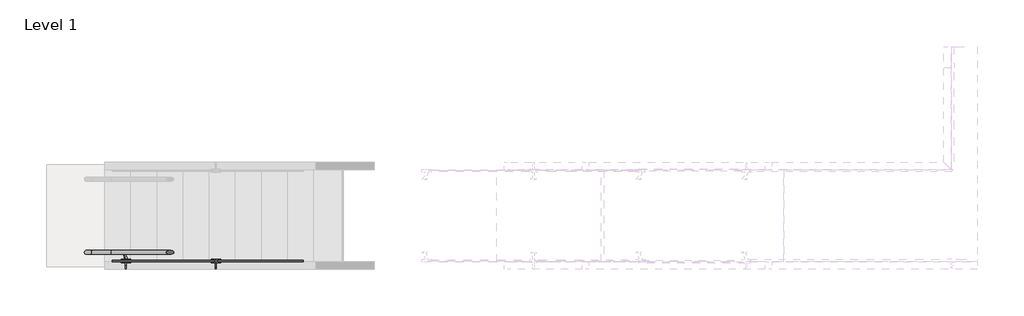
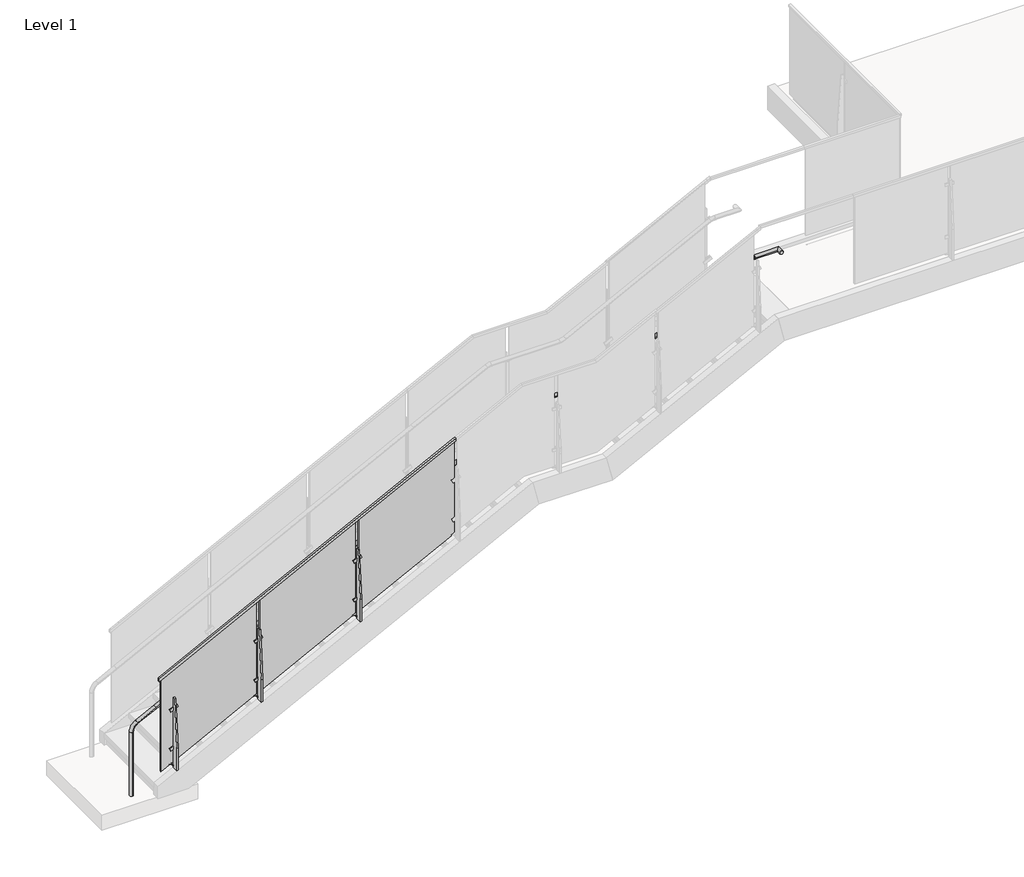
# One storey, part 27 of 37: 1 railing.
"""IFC4 building model written with IfcOpenShell, lengths in millimetres."""

from ifc_helpers import new_model, si_unit, point, frame, frame_2d, origin, place, context, project, spatial, polyline, circle_curve, ellipse_curve, trimmed, segment, composite_curve, outline, extrude, faceted_brep, element, save
from ifc_brep_helpers import plane_surface, cylinder_surface, revolved_surface, advanced_brep

model = new_model("IFC4")

# Units and contexts
model_context = context("Model", 3, world=origin())
ifc_project = project(units=[si_unit("LENGTHUNIT", "METRE", prefix="MILLI")], contexts=[model_context])

# Site, building, storey
site = spatial("IfcSite", under=ifc_project)
building = spatial("IfcBuilding", under=site)
storey = spatial("IfcBuildingStorey", under=building, Name="Level 1", Elevation=0.0)

# Railing
placement = place(None, origin())
element("IfcRailing", 1, ObjectType="VIVA-SOLO-Glass-Top_Weld_Steel-Channel Mount-Stair_Right_Lower", at=placement, inside=storey, context=model_context, shape_type="SolidModel", body=[
    advanced_brep(
    [(7796.9363892, 13042.6546645, 3730.2297243), (7796.9363892, 13080.7546645, 3730.2297243), (8069.9863892, 13080.7546645, 3730.2297243), (8031.8863892, 13042.6546645, 3730.2297243), (8031.8863892, 12998.2046645, 3730.2297243), (8069.9863892, 12998.2046645, 3730.2297243)],
    [
        (0, 1, circle_curve(frame((7796.9363892, 13061.7046645, 3730.2297243), z_axis=(-1.0, 0.0, 0.0), x_axis=(0.0, 1.0, 0.0)), 19.05)),
        (1, 0, circle_curve(frame((7796.9363892, 13061.7046645, 3730.2297243), z_axis=(-1.0, 0.0, 0.0), x_axis=(0.0, 1.0, 0.0)), 19.05)),
        (1, 2),
        (2, 3, ellipse_curve(frame((8050.9363892, 13061.7046645, 3730.2297243), z_axis=(-0.7071067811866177, 0.7071067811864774, 0.0), x_axis=(-0.7071067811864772, -0.7071067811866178, 0.0)), 26.9407684, 19.05)),
        (3, 0),
        (3, 2, ellipse_curve(frame((8050.9363892, 13061.7046645, 3730.2297243), z_axis=(-0.7071067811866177, 0.7071067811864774, 0.0), x_axis=(-0.7071067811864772, -0.7071067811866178, 0.0)), 26.9407684, 19.05)),
        (4, 5, circle_curve(frame((8050.9363892, 12998.2046645, 3730.2297243), z_axis=(0.0, -1.0, 0.0), x_axis=(1.0, 0.0, 0.0)), 19.05)),
        (5, 4, circle_curve(frame((8050.9363892, 12998.2046645, 3730.2297243), z_axis=(0.0, -1.0, 0.0), x_axis=(1.0, 0.0, 0.0)), 19.05)),
        (2, 5),
        (4, 3),
    ],
    [
        plane_surface(frame((7796.9363892, 13061.7046645, 3730.2297243), z_axis=(-1.0, 0.0, 0.0), x_axis=(0.0, 0.0, 1.0))),
        cylinder_surface(frame((7796.9363892, 13061.7046645, 3730.2297243), z_axis=(-1.0, 0.0, 0.0), x_axis=(0.0, 1.0, 0.0)), 19.05),
        plane_surface(frame((8050.9363892, 12998.2046645, 3730.2297243), z_axis=(0.0, -1.0, 0.0), x_axis=(0.0, 0.0, 1.0))),
        cylinder_surface(frame((8050.9363892, 13061.7046645, 3730.2297243), z_axis=(0.0, 1.0, 0.0), x_axis=(1.0, 0.0, 0.0)), 19.05),
    ],
    [
        (0, [[1, 2]]),
        (1, [[-2, 3, 4, 5]]),
        (1, [[-1, -5, 6, -3]]),
        (2, [[7, 8]]),
        (3, [[-4, 9, -7, 10]]),
        (3, [[-6, -10, -8, -9]]),
    ],
),
    extrude(outline(composite_curve([segment(trimmed(circle_curve(frame_2d((1187.6734986, 13061.7046645)), 50.8), [point((1187.6734986, 13112.5046645))], [point((1187.6734986, 13010.9046645))], False, "CARTESIAN"), True, "CONTINUOUS"), segment(trimmed(circle_curve(frame_2d((1187.6734986, 13061.7046645)), 50.8), [point((1187.6734986, 13010.9046645))], [point((1187.6734986, 13112.5046645))], False, "CARTESIAN"), True, "CONTINUOUS")], self_intersect=False)), frame((0.0, 0.0, -27.94), z_axis=(0.0, 0.0, 1.0), x_axis=(1.0, 0.0, 0.0)), (0.0, 0.0, 1.0), 19.05),
    advanced_brep(
    [(1187.6734986, 13042.6546645, -8.89), (1187.6734986, 13080.7546645, -8.89), (1187.6734986, 13042.6546645, 714.6335715), (1187.6734986, 13080.7546645, 714.6335715), (1243.1848475, 13080.7546645, 805.1785672), (1243.1848475, 13042.6546645, 805.1785672), (1437.6151207, 13042.6546645, 904.1462566), (1437.6151207, 13080.7546645, 904.1462566), (4587.2151207, 13042.6546645, 2507.3360764), (4587.2151207, 13080.7546645, 2507.3360764), (5420.7257203, 13080.7546645, 2919.1997077), (5420.7257203, 13042.6546645, 2919.1997077), (6143.8965574, 13042.6546645, 2919.1997077), (6143.8965574, 13080.7546645, 2919.1997077), (6207.2684526, 13080.7546645, 2934.4003386), (6207.2684526, 13042.6546645, 2934.4003386), (7749.0231226, 13042.6546645, 3719.17472), (7749.0231226, 13080.7546645, 3719.17472), (7795.1117737, 13080.7546645, 3730.2297243), (7795.1117737, 13042.6546645, 3730.2297243), (7796.9363892, 13042.6546645, 3730.2297243), (7796.9363892, 13080.7546645, 3730.2297243), (5374.6370692, 13042.6546645, 2908.1447034), (5374.6370692, 13080.7546645, 2908.1447034)],
    [
        (0, 1, circle_curve(frame((1187.6734986, 13061.7046645, -8.89), z_axis=(0.0, 0.0, -1.0), x_axis=(0.0, 1.0, 0.0)), 19.05)),
        (1, 0, circle_curve(frame((1187.6734986, 13061.7046645, -8.89), z_axis=(0.0, 0.0, -1.0), x_axis=(0.0, 1.0, 0.0)), 19.05)),
        (0, 2),
        (2, 3, circle_curve(frame((1187.6734986, 13061.7046645, 714.6335715), z_axis=(0.0, 0.0, -1.0), x_axis=(0.0, 1.0, 0.0)), 19.05)),
        (3, 1),
        (3, 2, circle_curve(frame((1187.6734986, 13061.7046645, 714.6335715), z_axis=(0.0, 0.0, -1.0), x_axis=(0.0, 1.0, 0.0)), 19.05)),
        (4, 3, circle_curve(frame((1289.2734986, 13080.7546645, 714.6335715), z_axis=(0.0, -1.0, 0.0), x_axis=(-1.0, 0.0, 0.0)), 101.6)),
        (2, 5, circle_curve(frame((1289.2734986, 13042.6546645, 714.6335715), z_axis=(0.0, 1.0, 0.0), x_axis=(-1.0, 0.0, 0.0)), 101.6)),
        (5, 4, circle_curve(frame((1243.1848475, 13061.7046645, 805.1785672), z_axis=(-0.8911909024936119, 0.0, -0.45362845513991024), x_axis=(0.0, 1.0, 0.0)), 19.05)),
        (4, 5, circle_curve(frame((1243.1848475, 13061.7046645, 805.1785672), z_axis=(-0.8911909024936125, 0.0, -0.45362845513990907), x_axis=(0.0, 1.0, 0.0)), 19.05)),
        (5, 6),
        (6, 7, circle_curve(frame((1437.6151207, 13061.7046645, 904.1462566), z_axis=(-0.891190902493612, 0.0, -0.45362845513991), x_axis=(0.0, 1.0, 0.0)), 19.05)),
        (7, 4),
        (7, 6, circle_curve(frame((1437.6151207, 13061.7046645, 904.1462566), z_axis=(-0.891190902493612, 0.0, -0.45362845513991), x_axis=(0.0, 1.0, 0.0)), 19.05)),
        (6, 8),
        (8, 9, circle_curve(frame((4587.2151207, 13061.7046645, 2507.3360764), z_axis=(-0.8911909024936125, 0.0, -0.453628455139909), x_axis=(0.0, 1.0, 0.0)), 19.05)),
        (9, 7),
        (9, 8, circle_curve(frame((4587.2151207, 13061.7046645, 2507.3360764), z_axis=(-0.8911909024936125, 0.0, -0.453628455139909), x_axis=(0.0, 1.0, 0.0)), 19.05)),
        (10, 11, circle_curve(frame((5420.7257203, 13061.7046645, 2919.1997077), z_axis=(1.0, 0.0, 0.0), x_axis=(0.0, 1.0, 0.0)), 19.05)),
        (11, 12),
        (12, 13, circle_curve(frame((6143.8965574, 13061.7046645, 2919.1997077), z_axis=(-1.0, 0.0, 0.0), x_axis=(0.0, 1.0, 0.0)), 19.05)),
        (13, 10),
        (11, 10, circle_curve(frame((5420.7257203, 13061.7046645, 2919.1997077), z_axis=(1.0, 0.0, 0.0), x_axis=(0.0, 1.0, 0.0)), 19.05)),
        (13, 12, circle_curve(frame((6143.8965574, 13061.7046645, 2919.1997077), z_axis=(-1.0, 0.0, 0.0), x_axis=(0.0, 1.0, 0.0)), 19.05)),
        (14, 15, circle_curve(frame((6207.2684526, 13061.7046645, 2934.4003386), z_axis=(0.8911909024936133, 0.0, 0.4536284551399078), x_axis=(0.0, 1.0, 0.0)), 19.05)),
        (15, 16),
        (16, 17, circle_curve(frame((7749.0231226, 13061.7046645, 3719.17472), z_axis=(-0.8911909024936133, 0.0, -0.4536284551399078), x_axis=(0.0, 1.0, 0.0)), 19.05)),
        (17, 14),
        (15, 14, circle_curve(frame((6207.2684526, 13061.7046645, 2934.4003386), z_axis=(0.8911909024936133, 0.0, 0.4536284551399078), x_axis=(0.0, 1.0, 0.0)), 19.05)),
        (17, 16, circle_curve(frame((7749.0231226, 13061.7046645, 3719.17472), z_axis=(-0.8911909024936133, 0.0, -0.4536284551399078), x_axis=(0.0, 1.0, 0.0)), 19.05)),
        (14, 13, circle_curve(frame((6143.8965574, 13080.7546645, 3058.8997077), z_axis=(0.0, 1.0, 0.0), x_axis=(0.0, 0.0, -1.0)), 139.7)),
        (12, 15, circle_curve(frame((6143.8965574, 13042.6546645, 3058.8997077), z_axis=(0.0, -1.0, 0.0), x_axis=(0.0, 0.0, -1.0)), 139.7)),
        (18, 17, circle_curve(frame((7795.1117737, 13080.7546645, 3628.6297243), z_axis=(0.0, -1.0, 0.0), x_axis=(-0.45362845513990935, 0.0, 0.8911909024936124)), 101.6)),
        (16, 19, circle_curve(frame((7795.1117737, 13042.6546645, 3628.6297243), z_axis=(0.0, 1.0, 0.0), x_axis=(-0.45362845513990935, 0.0, 0.8911909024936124)), 101.6)),
        (19, 18, circle_curve(frame((7795.1117737, 13061.7046645, 3730.2297243), z_axis=(-1.0000000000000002, 0.0, 0.0), x_axis=(0.0, 1.0000000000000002, 0.0)), 19.05)),
        (18, 19, circle_curve(frame((7795.1117737, 13061.7046645, 3730.2297243), z_axis=(-1.0000000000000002, 0.0, 0.0), x_axis=(0.0, 1.0000000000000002, 0.0)), 19.05)),
        (20, 21, circle_curve(frame((7796.9363892, 13061.7046645, 3730.2297243), z_axis=(1.0, 0.0, 0.0), x_axis=(0.0, 1.0, 0.0)), 19.05)),
        (21, 20, circle_curve(frame((7796.9363892, 13061.7046645, 3730.2297243), z_axis=(1.0, 0.0, 0.0), x_axis=(0.0, 1.0, 0.0)), 19.05)),
        (19, 20),
        (21, 18),
        (8, 22),
        (22, 23, circle_curve(frame((5374.6370692, 13061.7046645, 2908.1447034), z_axis=(-0.8911909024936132, 0.0, -0.4536284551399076), x_axis=(0.0, 1.0, 0.0)), 19.05)),
        (23, 9),
        (23, 22, circle_curve(frame((5374.6370692, 13061.7046645, 2908.1447034), z_axis=(-0.8911909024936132, 0.0, -0.4536284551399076), x_axis=(0.0, 1.0, 0.0)), 19.05)),
        (10, 23, circle_curve(frame((5420.7257203, 13080.7546645, 2817.5997077), z_axis=(0.0, -1.0, 0.0), x_axis=(-0.4536284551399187, 0.0, 0.8911909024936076)), 101.6)),
        (22, 11, circle_curve(frame((5420.7257203, 13042.6546645, 2817.5997077), z_axis=(0.0, 1.0, 0.0), x_axis=(-0.4536284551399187, 0.0, 0.8911909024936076)), 101.6)),
    ],
    [
        plane_surface(frame((1168.6234986, 13023.6046645, -8.89), z_axis=(0.0, 0.0, -1.0), x_axis=(1.0, 0.0, 0.0))),
        cylinder_surface(frame((1187.6734986, 13061.7046645, -8.89), z_axis=(0.0, 0.0, -1.0), x_axis=(0.0, 1.0, 0.0)), 19.05),
        revolved_surface(trimmed(ellipse_curve(frame((1187.6734986, 13061.7046645, 714.6335715), z_axis=(0.0, 0.0, -1.0), x_axis=(0.0, 1.0, 0.0)), 19.05, 19.05), [point((1187.6734986, 13042.6546645, 714.6335715))], [point((1187.6734986, 13080.7546645, 714.6335715))], True, "CARTESIAN"), (1289.2734986, 13061.7046645, 714.6335715), (0.0, 1.0, 0.0)),
        revolved_surface(trimmed(ellipse_curve(frame((1187.6734986, 13061.7046645, 714.6335715), z_axis=(0.0, 0.0, -1.0), x_axis=(0.0, 1.0, 0.0)), 19.05, 19.05), [point((1187.6734986, 13080.7546645, 714.6335715))], [point((1187.6734986, 13042.6546645, 714.6335715))], True, "CARTESIAN"), (1289.2734986, 13061.7046645, 714.6335715), (0.0, 1.0, 0.0)),
        cylinder_surface(frame((1243.1848475, 13061.7046645, 805.1785672), z_axis=(-0.891190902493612, 0.0, -0.45362845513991), x_axis=(0.0, 1.0, 0.0)), 19.05),
        cylinder_surface(frame((1437.6151207, 13061.7046645, 904.1462566), z_axis=(-0.8911909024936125, 0.0, -0.453628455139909), x_axis=(0.0, 1.0, 0.0)), 19.05),
        cylinder_surface(frame((5420.7257203, 13061.7046645, 2919.1997077), z_axis=(-1.0, 0.0, 0.0), x_axis=(0.0, 1.0, 0.0)), 19.05),
        cylinder_surface(frame((6207.2684526, 13061.7046645, 2934.4003386), z_axis=(-0.8911909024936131, 0.0, -0.4536284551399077), x_axis=(0.0, 1.0, 0.0)), 19.05),
        revolved_surface(trimmed(ellipse_curve(frame((6143.8965574, 13061.7046645, 2919.1997077), z_axis=(-1.0, 0.0, 0.0), x_axis=(0.0, 1.0, 0.0)), 19.05, 19.05), [point((6143.8965574, 13042.6546645, 2919.1997077))], [point((6143.8965574, 13080.7546645, 2919.1997077))], True, "CARTESIAN"), (6143.8965574, 13061.7046645, 3058.8997077), (0.0, -1.0, 0.0)),
        revolved_surface(trimmed(ellipse_curve(frame((6143.8965574, 13061.7046645, 2919.1997077), z_axis=(-1.0, 0.0, 0.0), x_axis=(0.0, 1.0, 0.0)), 19.05, 19.05), [point((6143.8965574, 13080.7546645, 2919.1997077))], [point((6143.8965574, 13042.6546645, 2919.1997077))], True, "CARTESIAN"), (6143.8965574, 13061.7046645, 3058.8997077), (0.0, -1.0, 0.0)),
        revolved_surface(trimmed(ellipse_curve(frame((7749.0231226, 13061.7046645, 3719.17472), z_axis=(-0.8911909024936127, 0.0, -0.45362845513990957), x_axis=(0.0, 1.0000000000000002, 0.0)), 19.05, 19.05), [point((7749.0231226, 13042.6546645, 3719.17472))], [point((7749.0231226, 13080.7546645, 3719.17472))], True, "CARTESIAN"), (7795.1117737, 13061.7046645, 3628.6297243), (0.0, 1.0000000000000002, 0.0)),
        revolved_surface(trimmed(ellipse_curve(frame((7749.0231226, 13061.7046645, 3719.17472), z_axis=(-0.8911909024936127, 0.0, -0.45362845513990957), x_axis=(0.0, 1.0000000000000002, 0.0)), 19.05, 19.05), [point((7749.0231226, 13080.7546645, 3719.17472))], [point((7749.0231226, 13042.6546645, 3719.17472))], True, "CARTESIAN"), (7795.1117737, 13061.7046645, 3628.6297243), (0.0, 1.0000000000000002, 0.0)),
        plane_surface(frame((7796.9363892, 13061.7046645, 3749.2797243), z_axis=(1.0, 0.0, 0.0), x_axis=(0.0, 1.0, 0.0))),
        cylinder_surface(frame((7795.1117737, 13061.7046645, 3730.2297243), z_axis=(-1.0, 0.0, 0.0), x_axis=(0.0, 1.0, 0.0)), 19.05),
        cylinder_surface(frame((4587.2151207, 13061.7046645, 2507.3360764), z_axis=(-0.8911909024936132, 0.0, -0.4536284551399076), x_axis=(0.0, 1.0, 0.0)), 19.05),
        revolved_surface(trimmed(ellipse_curve(frame((5374.6370692, 13061.7046645, 2908.1447034), z_axis=(-0.8911909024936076, 0.0, -0.4536284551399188), x_axis=(0.0, 1.0, 0.0)), 19.05, 19.05), [point((5374.6370692, 13042.6546645, 2908.1447034))], [point((5374.6370692, 13080.7546645, 2908.1447034))], True, "CARTESIAN"), (5420.7257203, 13061.7046645, 2817.5997077), (0.0, 1.0, 0.0)),
        revolved_surface(trimmed(ellipse_curve(frame((5374.6370692, 13061.7046645, 2908.1447034), z_axis=(-0.8911909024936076, 0.0, -0.4536284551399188), x_axis=(0.0, 1.0, 0.0)), 19.05, 19.05), [point((5374.6370692, 13080.7546645, 2908.1447034))], [point((5374.6370692, 13042.6546645, 2908.1447034))], True, "CARTESIAN"), (5420.7257203, 13061.7046645, 2817.5997077), (0.0, 1.0, 0.0)),
    ],
    [
        (0, [[1, 2]]),
        (1, [[-1, 3, 4, 5]]),
        (1, [[-2, -5, 6, -3]]),
        (2, [[7, -4, 8, 9]]),
        (3, [[-8, -6, -7, 10]]),
        (4, [[-9, 11, 12, 13]]),
        (4, [[-10, -13, 14, -11]]),
        (5, [[-12, 15, 16, 17]]),
        (5, [[-14, -17, 18, -15]]),
        (6, [[19, 20, 21, 22]]),
        (6, [[23, -22, 24, -20]]),
        (7, [[25, 26, 27, 28]]),
        (7, [[29, -28, 30, -26]]),
        (8, [[31, -21, 32, -25]]),
        (9, [[-32, -24, -31, -29]]),
        (10, [[33, -27, 34, 35]]),
        (11, [[-34, -30, -33, 36]]),
        (12, [[37, 38]]),
        (13, [[-35, 39, -38, 40]]),
        (13, [[-36, -40, -37, -39]]),
        (14, [[-16, 41, 42, 43]]),
        (14, [[-18, -43, 44, -41]]),
        (15, [[45, -42, 46, -19]]),
        (16, [[-46, -44, -45, -23]]),
    ],
),
    faceted_brep([(1428.9734986, 12965.0576645, 1279.2634433), (1428.9734986, 12987.2826645, 1279.2634433), (1428.9734986, 12987.2826645, 1250.7622547), (1428.9734986, 12982.5201645, 1250.7622547), (1428.9734986, 12982.5201645, 1273.9194705), (1428.9734986, 12969.8201645, 1273.9194705), (1428.9734986, 12969.8201645, 1250.7622547), (1428.9734986, 12965.0576645, 1250.7622547), (4578.5734986, 12965.0576645, 2882.453263), (4578.5734986, 12965.0576645, 2853.9520744), (4578.5734986, 12969.8201645, 2853.9520744), (4578.5734986, 12969.8201645, 2877.1092902), (4578.5734986, 12982.5201645, 2877.1092902), (4578.5734986, 12982.5201645, 2853.9520744), (4578.5734986, 12987.2826645, 2853.9520744), (4578.5734986, 12987.2826645, 2882.453263)], [[[0, 1, 2, 3, 4, 5, 6, 7]], [[8, 9, 10, 11, 12, 13, 14, 15]], [[1, 0, 8, 15]], [[2, 1, 15, 14]], [[3, 2, 14, 13]], [[4, 3, 13, 12]], [[5, 4, 12, 11]], [[6, 5, 11, 10]], [[7, 6, 10, 9]], [[0, 7, 9, 8]]]),
    extrude(outline(polyline([(2868.4999629, 4562.0232119), (2351.3419566, 3546.0232119), (1300.06135, 3546.0232119), (1817.2193564, 4562.0232119), (2868.4999629, 4562.0232119)])), frame((0.0, 12969.7566645, 0.0), z_axis=(0.0, 1.0, 0.0), x_axis=(0.0, 0.0, 1.0)), (0.0, 0.0, 1.0), 12.7),
    extrude(outline(polyline([(-12.7, 0.0), (-12.7, 3.175), (50.8, 65.0875), (61.9125, 65.0875), (61.9125, 34.925), (58.7375, 34.925), (0.0, 3.175), (0.0, 0.0), (-12.7, 0.0)])), frame((3501.0892271, 13054.1451983, 1935.8078332), z_axis=(0.8987940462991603, 0.0, 0.4383711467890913), x_axis=(0.0, -1.0, 0.0)), (0.0, 0.0, 1.0), 12.7),
    extrude(outline(polyline([(12960.1681645, 2017.8566565), (12960.1681645, 1227.9420499), (12896.6681645, 1227.9420499), (12896.6681645, 1484.4566565), (12934.7681645, 2017.8566565), (12960.1681645, 2017.8566565)])), frame((3522.3568319, 0.0, 0.0), z_axis=(1.0, 0.0, 0.0), x_axis=(0.0, 1.0, 0.0)), (0.0, 0.0, 1.0), 12.7),
    extrude(outline(polyline([(0.0, -88.9), (0.0, 0.0), (9.525, 0.0), (9.525, -88.9), (0.0, -88.9)])), frame((3575.6284037, 12970.0076983, 1461.6851276), z_axis=(-0.4383711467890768, 0.0, 0.8987940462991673), x_axis=(0.0, -1.0, 0.0)), (0.0, 0.0, 1.0), 31.75),
    extrude(outline(polyline([(0.0, -88.9), (0.0, 0.0), (9.525, 0.0), (9.525, -88.9), (0.0, -88.9)])), frame((3575.6284037, 12992.2326983, 1898.8634122), z_axis=(-0.4383711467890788, 0.0, 0.8987940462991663), x_axis=(0.0, -1.0, 0.0)), (0.0, 0.0, 1.0), 31.75),
    extrude(outline(polyline([(0.0, -88.9), (0.0, 0.0), (9.525, 0.0), (9.525, -88.9), (0.0, -88.9)])), frame((3575.6284037, 12970.0076983, 1898.8634122), z_axis=(-0.4383711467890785, 0.0, 0.8987940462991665), x_axis=(0.0, -1.0, 0.0)), (0.0, 0.0, 1.0), 31.75),
    extrude(outline(polyline([(0.0, -88.9), (0.0, 0.0), (9.525, 0.0), (9.525, -88.9), (0.0, -88.9)])), frame((3575.6284037, 12992.2326983, 1461.6851276), z_axis=(-0.43837114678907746, 0.0, 0.898794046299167), x_axis=(0.0, -1.0, 0.0)), (0.0, 0.0, 1.0), 31.75),
    extrude(outline(polyline([(1305.1332085, 3564.4797891), (1310.8405507, 3561.6961324), (1271.8693557, 3481.7933416), (1266.1620135, 3484.5769984), (1265.9508552, 3534.1351435), (1305.1332085, 3564.4797891)])), frame((0.0, 12970.0076983, 0.0), z_axis=(0.0, 1.0, 0.0), x_axis=(0.0, 0.0, 1.0)), (0.0, 0.0, 1.0), 12.7),
    extrude(outline(composite_curve([segment(polyline([(0.0, 0.0), (2.8057896, 0.0)]), True, "CONTINUOUS"), segment(trimmed(circle_curve(frame_2d((26.8875079, 8.0765616)), 25.4), [point((2.8057896, 0.0))], [point((8.7901893, -9.7460941))], True, "CARTESIAN"), True, "CONTINUOUS"), segment(polyline([(8.7901893, -9.7460941), (6.4034747, -11.1240644)]), True, "CONTINUOUS"), segment(trimmed(circle_curve(frame_2d((24.5007934, 6.6985914)), 25.4), [point((6.4034747, -11.1240644))], [point((0.0, 0.0))], False, "CARTESIAN"), True, "CONTINUOUS")], self_intersect=False)), frame((3485.1681095, 13054.0459519, 1924.9946344), z_axis=(0.8987940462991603, 0.0, 0.4383711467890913), x_axis=(-0.37964054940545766, 0.5000000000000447, 0.7783784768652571)), (0.0, 0.0, 1.0), 50.8),
    extrude(outline(composite_curve([segment(trimmed(circle_curve(frame_2d((1474.7125104, 3528.7178664)), 6.35), [point((1474.7125104, 3535.0678664))], [point((1474.7125104, 3522.3678664))], False, "CARTESIAN"), True, "CONTINUOUS"), segment(trimmed(circle_curve(frame_2d((1474.7125104, 3528.7178664)), 6.35), [point((1474.7125104, 3522.3678664))], [point((1474.7125104, 3535.0678664))], False, "CARTESIAN"), True, "CONTINUOUS")], self_intersect=False)), frame((0.0, 12970.0076983, 0.0), z_axis=(0.0, 1.0, 0.0), x_axis=(0.0, 0.0, 1.0)), (0.0, 0.0, 1.0), 12.7),
    extrude(outline(composite_curve([segment(trimmed(circle_curve(frame_2d((1892.9516201, 3528.7178664)), 6.35), [point((1892.9516201, 3535.0678664))], [point((1892.9516201, 3522.3678664))], False, "CARTESIAN"), True, "CONTINUOUS"), segment(trimmed(circle_curve(frame_2d((1892.9516201, 3528.7178664)), 6.35), [point((1892.9516201, 3522.3678664))], [point((1892.9516201, 3535.0678664))], False, "CARTESIAN"), True, "CONTINUOUS")], self_intersect=False)), frame((0.0, 12970.0076983, 0.0), z_axis=(0.0, 1.0, 0.0), x_axis=(0.0, 0.0, 1.0)), (0.0, 0.0, 1.0), 12.7),
    extrude(outline(composite_curve([segment(trimmed(circle_curve(frame_2d((1251.828047, 3528.7178664)), 11.1125), [point((1251.828047, 3539.8303664))], [point((1251.828047, 3517.6053664))], False, "CARTESIAN"), True, "CONTINUOUS"), segment(trimmed(circle_curve(frame_2d((1251.828047, 3528.7178664)), 11.1125), [point((1251.828047, 3517.6053664))], [point((1251.828047, 3539.8303664))], False, "CARTESIAN"), True, "CONTINUOUS")], self_intersect=False)), frame((0.0, 12960.4826983, 0.0), z_axis=(0.0, 1.0, 0.0), x_axis=(0.0, 0.0, 1.0)), (0.0, 0.0, 1.0), 25.4),
    extrude(outline(polyline([(2334.1033564, 3512.1565452), (1816.94535, 2496.1565452), (765.6647434, 2496.1565452), (1282.8227498, 3512.1565452), (2334.1033564, 3512.1565452)])), frame((0.0, 12969.7566645, 0.0), z_axis=(0.0, 1.0, 0.0), x_axis=(0.0, 0.0, 1.0)), (0.0, 0.0, 1.0), 12.7),
    extrude(outline(polyline([(-12.7, 0.0), (-12.7, 3.175), (50.8, 65.0875), (61.9125, 65.0875), (61.9125, 34.9249999), (58.7375, 34.9249999), (0.0, 3.175), (0.0, 0.0), (-12.7, 0.0)])), frame((2451.2225604, 13054.1451983, 1401.4112266), z_axis=(0.8987940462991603, 0.0, 0.4383711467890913), x_axis=(0.0, -1.0, 0.0)), (0.0, 0.0, 1.0), 12.7),
    extrude(outline(polyline([(12960.1681645, 1483.4600499), (12960.1681645, 693.5454433), (12896.6681645, 693.5454433), (12896.6681645, 950.0600499), (12934.7681645, 1483.4600499), (12960.1681645, 1483.4600499)])), frame((2472.4901653, 0.0, 0.0), z_axis=(1.0, 0.0, 0.0), x_axis=(0.0, 1.0, 0.0)), (0.0, 0.0, 1.0), 12.7),
    extrude(outline(polyline([(0.0, -88.9000001), (0.0, 0.0), (9.525, 0.0), (9.525, -88.9000001), (0.0, -88.9000001)])), frame((2525.7617371, 12970.0076983, 927.288521), z_axis=(-0.4383711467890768, 0.0, 0.8987940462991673), x_axis=(0.0, -1.0, 0.0)), (0.0, 0.0, 1.0), 31.75),
    extrude(outline(polyline([(0.0, -88.9000001), (0.0, 0.0), (9.525, 0.0), (9.525, -88.9000001), (0.0, -88.9000001)])), frame((2525.7617371, 12992.2326983, 1364.4668056), z_axis=(-0.4383711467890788, 0.0, 0.8987940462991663), x_axis=(0.0, -1.0, 0.0)), (0.0, 0.0, 1.0), 31.75),
    extrude(outline(polyline([(0.0, -88.9000001), (0.0, 0.0), (9.525, 0.0), (9.525, -88.9000001), (0.0, -88.9000001)])), frame((2525.7617371, 12970.0076983, 1364.4668056), z_axis=(-0.4383711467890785, 0.0, 0.8987940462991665), x_axis=(0.0, -1.0, 0.0)), (0.0, 0.0, 1.0), 31.75),
    extrude(outline(polyline([(0.0, -88.9000001), (0.0, 0.0), (9.525, 0.0), (9.525, -88.9000001), (0.0, -88.9000001)])), frame((2525.7617371, 12992.2326983, 927.288521), z_axis=(-0.43837114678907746, 0.0, 0.898794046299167), x_axis=(0.0, -1.0, 0.0)), (0.0, 0.0, 1.0), 31.75),
    extrude(outline(polyline([(770.7366019, 2514.6131225), (776.4439441, 2511.8294657), (737.4727491, 2431.926675), (731.7654069, 2434.7103318), (731.5542486, 2484.2684768), (770.7366019, 2514.6131225)])), frame((0.0, 12970.0076983, 0.0), z_axis=(0.0, 1.0, 0.0), x_axis=(0.0, 0.0, 1.0)), (0.0, 0.0, 1.0), 12.7),
    extrude(outline(composite_curve([segment(polyline([(0.0, 0.0), (2.8057896, 0.0)]), True, "CONTINUOUS"), segment(trimmed(circle_curve(frame_2d((26.8875078, 8.0765616)), 25.4), [point((2.8057896, 0.0))], [point((8.7901892, -9.7460941))], True, "CARTESIAN"), True, "CONTINUOUS"), segment(polyline([(8.7901892, -9.7460941), (6.4034746, -11.1240644)]), True, "CONTINUOUS"), segment(trimmed(circle_curve(frame_2d((24.5007933, 6.6985913)), 25.4), [point((6.4034746, -11.1240644))], [point((0.0, 0.0))], False, "CARTESIAN"), True, "CONTINUOUS")], self_intersect=False)), frame((2435.3014428, 13054.0459519, 1390.5980279), z_axis=(0.8987940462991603, 0.0, 0.4383711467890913), x_axis=(-0.37964054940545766, 0.5000000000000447, 0.7783784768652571)), (0.0, 0.0, 1.0), 50.8),
    extrude(outline(composite_curve([segment(trimmed(circle_curve(frame_2d((940.3159039, 2478.8511997)), 6.35), [point((940.3159039, 2485.2011997))], [point((940.3159039, 2472.5011997))], False, "CARTESIAN"), True, "CONTINUOUS"), segment(trimmed(circle_curve(frame_2d((940.3159039, 2478.8511997)), 6.35), [point((940.3159039, 2472.5011997))], [point((940.3159039, 2485.2011997))], False, "CARTESIAN"), True, "CONTINUOUS")], self_intersect=False)), frame((0.0, 12970.0076983, 0.0), z_axis=(0.0, 1.0, 0.0), x_axis=(0.0, 0.0, 1.0)), (0.0, 0.0, 1.0), 12.7),
    extrude(outline(composite_curve([segment(trimmed(circle_curve(frame_2d((1358.5550135, 2478.8511997)), 6.35), [point((1358.5550135, 2485.2011997))], [point((1358.5550135, 2472.5011997))], False, "CARTESIAN"), True, "CONTINUOUS"), segment(trimmed(circle_curve(frame_2d((1358.5550135, 2478.8511997)), 6.35), [point((1358.5550135, 2472.5011997))], [point((1358.5550135, 2485.2011997))], False, "CARTESIAN"), True, "CONTINUOUS")], self_intersect=False)), frame((0.0, 12970.0076983, 0.0), z_axis=(0.0, 1.0, 0.0), x_axis=(0.0, 0.0, 1.0)), (0.0, 0.0, 1.0), 12.7),
    extrude(outline(composite_curve([segment(trimmed(circle_curve(frame_2d((717.4314405, 2478.8511997)), 11.1125), [point((717.4314405, 2489.9636997))], [point((717.4314405, 2467.7386997))], False, "CARTESIAN"), True, "CONTINUOUS"), segment(trimmed(circle_curve(frame_2d((717.4314405, 2478.8511997)), 11.1125), [point((717.4314405, 2467.7386997))], [point((717.4314405, 2489.9636997))], False, "CARTESIAN"), True, "CONTINUOUS")], self_intersect=False)), frame((0.0, 12960.4826983, 0.0), z_axis=(0.0, 1.0, 0.0), x_axis=(0.0, 0.0, 1.0)), (0.0, 0.0, 1.0), 25.4),
    extrude(outline(polyline([(1799.7067498, 2462.2898785), (1282.5487434, 1446.2898785), (231.2681369, 1446.2898785), (748.4261432, 2462.2898785), (1799.7067498, 2462.2898785)])), frame((0.0, 12969.7566645, 0.0), z_axis=(0.0, 1.0, 0.0), x_axis=(0.0, 0.0, 1.0)), (0.0, 0.0, 1.0), 12.7),
    extrude(outline(polyline([(-12.7, 0.0), (-12.7, 3.175), (50.8, 65.0875), (61.9125, 65.0875), (61.9125, 34.925), (58.7375, 34.925), (0.0, 3.175), (0.0, 0.0), (-12.7, 0.0)])), frame((1553.7558937, 13054.1451983, 944.588321), z_axis=(0.8987940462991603, 0.0, 0.4383711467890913), x_axis=(0.0, -1.0, 0.0)), (0.0, 0.0, 1.0), 12.7),
    extrude(outline(polyline([(12960.1681645, 1026.6371443), (12960.1681645, 236.7225377), (12896.6681645, 236.7225377), (12896.6681645, 493.2371443), (12934.7681645, 1026.6371443), (12960.1681645, 1026.6371443)])), frame((1575.0234986, 0.0, 0.0), z_axis=(1.0, 0.0, 0.0), x_axis=(0.0, 1.0, 0.0)), (0.0, 0.0, 1.0), 12.7),
    extrude(outline(polyline([(0.0, -88.9), (0.0, 0.0), (9.525, 0.0), (9.525, -88.9), (0.0, -88.9)])), frame((1628.2950704, 12970.0076983, 470.4656154), z_axis=(-0.4383711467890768, 0.0, 0.8987940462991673), x_axis=(0.0, -1.0, 0.0)), (0.0, 0.0, 1.0), 31.75),
    extrude(outline(polyline([(0.0, -88.9), (0.0, 0.0), (9.525, 0.0), (9.525, -88.9), (0.0, -88.9)])), frame((1628.2950704, 12992.2326983, 907.6439), z_axis=(-0.4383711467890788, 0.0, 0.8987940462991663), x_axis=(0.0, -1.0, 0.0)), (0.0, 0.0, 1.0), 31.75),
    extrude(outline(polyline([(0.0, -88.9), (0.0, 0.0), (9.525, 0.0), (9.525, -88.9), (0.0, -88.9)])), frame((1628.2950704, 12970.0076983, 907.6439), z_axis=(-0.4383711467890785, 0.0, 0.8987940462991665), x_axis=(0.0, -1.0, 0.0)), (0.0, 0.0, 1.0), 31.75),
    extrude(outline(polyline([(0.0, -88.9), (0.0, 0.0), (9.525, 0.0), (9.525, -88.9), (0.0, -88.9)])), frame((1628.2950704, 12992.2326983, 470.4656154), z_axis=(-0.43837114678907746, 0.0, 0.898794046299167), x_axis=(0.0, -1.0, 0.0)), (0.0, 0.0, 1.0), 31.75),
    extrude(outline(polyline([(313.9136963, 1617.1464558), (319.6210385, 1614.362799), (280.6498435, 1534.4600083), (274.9425013, 1537.2436651), (274.731343, 1586.8018101), (313.9136963, 1617.1464558)])), frame((0.0, 12970.0076983, 0.0), z_axis=(0.0, 1.0, 0.0), x_axis=(0.0, 0.0, 1.0)), (0.0, 0.0, 1.0), 12.7),
    extrude(outline(composite_curve([segment(polyline([(0.0, 0.0), (2.8057896, 0.0)]), True, "CONTINUOUS"), segment(trimmed(circle_curve(frame_2d((26.8875079, 8.0765616)), 25.4), [point((2.8057896, 0.0))], [point((8.7901893, -9.7460941))], True, "CARTESIAN"), True, "CONTINUOUS"), segment(polyline([(8.7901893, -9.7460941), (6.4034747, -11.1240644)]), True, "CONTINUOUS"), segment(trimmed(circle_curve(frame_2d((24.5007934, 6.6985914)), 25.4), [point((6.4034747, -11.1240644))], [point((0.0, 0.0))], False, "CARTESIAN"), True, "CONTINUOUS")], self_intersect=False)), frame((1537.8347762, 13054.0459519, 933.7751222), z_axis=(0.8987940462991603, 0.0, 0.4383711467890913), x_axis=(-0.37964054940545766, 0.5000000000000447, 0.7783784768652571)), (0.0, 0.0, 1.0), 50.8),
    extrude(outline(composite_curve([segment(trimmed(circle_curve(frame_2d((483.4929982, 1581.3845331)), 6.35), [point((483.4929982, 1587.7345331))], [point((483.4929982, 1575.0345331))], False, "CARTESIAN"), True, "CONTINUOUS"), segment(trimmed(circle_curve(frame_2d((483.4929982, 1581.3845331)), 6.35), [point((483.4929982, 1575.0345331))], [point((483.4929982, 1587.7345331))], False, "CARTESIAN"), True, "CONTINUOUS")], self_intersect=False)), frame((0.0, 12970.0076983, 0.0), z_axis=(0.0, 1.0, 0.0), x_axis=(0.0, 0.0, 1.0)), (0.0, 0.0, 1.0), 12.7),
    extrude(outline(composite_curve([segment(trimmed(circle_curve(frame_2d((901.7321079, 1581.3845331)), 6.35), [point((901.7321079, 1587.7345331))], [point((901.7321079, 1575.0345331))], False, "CARTESIAN"), True, "CONTINUOUS"), segment(trimmed(circle_curve(frame_2d((901.7321079, 1581.3845331)), 6.35), [point((901.7321079, 1575.0345331))], [point((901.7321079, 1587.7345331))], False, "CARTESIAN"), True, "CONTINUOUS")], self_intersect=False)), frame((0.0, 12970.0076983, 0.0), z_axis=(0.0, 1.0, 0.0), x_axis=(0.0, 0.0, 1.0)), (0.0, 0.0, 1.0), 12.7),
    extrude(outline(composite_curve([segment(trimmed(circle_curve(frame_2d((260.6085349, 1581.3845331)), 11.1125), [point((260.6085349, 1592.4970331))], [point((260.6085349, 1570.2720331))], False, "CARTESIAN"), True, "CONTINUOUS"), segment(trimmed(circle_curve(frame_2d((260.6085349, 1581.3845331)), 11.1125), [point((260.6085349, 1570.2720331))], [point((260.6085349, 1592.4970331))], False, "CARTESIAN"), True, "CONTINUOUS")], self_intersect=False)), frame((0.0, 12960.4826983, 0.0), z_axis=(0.0, 1.0, 0.0), x_axis=(0.0, 0.0, 1.0)), (0.0, 0.0, 1.0), 25.4),
])

save(model, "model.ifc")
